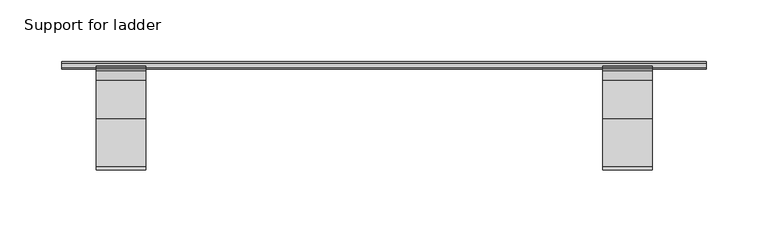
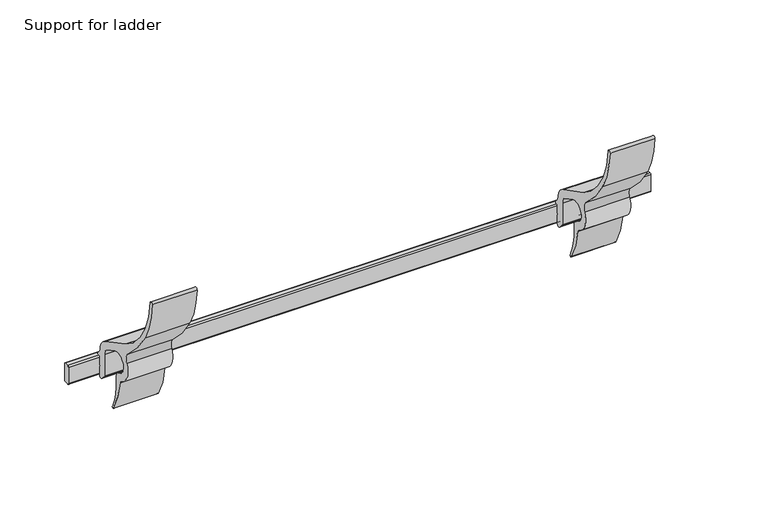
"""IFC4 building model written with IfcOpenShell, lengths in millimetres: proxy geometry, GROVIK_Special_Ladder Support : Support for ladder."""

from ifc_helpers import new_model, si_unit, point, frame, frame_2d, origin, place, context, project, spatial, polyline, circle_curve, trimmed, segment, composite_curve, outline, extrude, source, transform, mapped, element, save


def support_for_ladder_5c5d3373(model_context):
    return source(origin(), model_context, "Body", "SweptSolid", [
        extrude(outline(composite_curve([segment(polyline([(-100.3471133, -28.8400648), (-104.3471133, -25.1949601)]), True, "CONTINUOUS"), segment(trimmed(circle_curve(frame_2d((-103.0, -23.7166889)), 2.0), [point((-104.3471133, -25.1949601))], [point((-105.0, -23.7166889))], False, "CARTESIAN"), True, "CONTINUOUS"), segment(polyline([(-105.0, -23.7166889), (-105.0, -3.2356846)]), True, "CONTINUOUS"), segment(trimmed(circle_curve(frame_2d((-112.5037926, -3.2356846)), 7.5037926), [point((-105.0, -3.2356846))], [point((-109.0572751, 3.4297802))], True, "CARTESIAN"), True, "CONTINUOUS"), segment(polyline([(-109.0572751, 3.4297802), (-121.2875493, 9.7536984)]), True, "CONTINUOUS"), segment(trimmed(circle_curve(frame_2d((-125.4171148, 1.7672387)), 8.9909315), [point((-121.2875493, 9.7536984))], [point((-129.5466803, -6.2192211))], True, "CARTESIAN"), True, "CONTINUOUS"), segment(polyline([(-129.5466803, -6.2192211), (-125.7022475, -8.2070652)]), True, "CONTINUOUS"), segment(trimmed(circle_curve(frame_2d((-127.9943388, -12.6399034)), 4.9903644), [point((-125.7022475, -8.2070652))], [point((-123.0376282, -13.2184852))], False, "CARTESIAN"), True, "CONTINUOUS"), segment(trimmed(circle_curve(frame_2d((-61.4949065, -18.251373)), 61.7481705), [point((-123.0376282, -13.2184852))], [point((-117.0379542, -45.2292604))], True, "CARTESIAN"), True, "CONTINUOUS"), segment(trimmed(circle_curve(frame_2d((-117.7006523, -45.6248433)), 0.7717867), [point((-117.0379542, -45.2292604))], [point((-118.3633504, -46.0204262))], False, "CARTESIAN"), True, "CONTINUOUS"), segment(trimmed(circle_curve(frame_2d((-51.0899225, -5.8630493)), 78.3474889), [point((-118.3633504, -46.0204262))], [point((-128.8173707, -15.7003669))], False, "CARTESIAN"), True, "CONTINUOUS"), segment(trimmed(circle_curve(frame_2d((-132.1430681, -16.1212728)), 3.3522268), [point((-128.8173707, -15.7003669))], [point((-130.9203712, -12.999985))], True, "CARTESIAN"), True, "CONTINUOUS"), segment(trimmed(circle_curve(frame_2d((-125.1599333, 1.7052001)), 15.7931983), [point((-130.9203712, -12.999985))], [point((-139.1668738, 9.0011395))], False, "CARTESIAN"), True, "CONTINUOUS"), segment(trimmed(circle_curve(frame_2d((-146.2881022, 12.7104472)), 8.0293747), [point((-139.1668738, 9.0011395))], [point((-141.0776299, 18.8196072))], True, "CARTESIAN"), True, "CONTINUOUS"), segment(trimmed(circle_curve(frame_2d((-59.579421, 114.3743997)), 125.5893165), [point((-141.0776299, 18.8196072))], [point((-167.477544, 50.1040995))], False, "CARTESIAN"), True, "CONTINUOUS"), segment(trimmed(circle_curve(frame_2d((-90.8112333, 92.7675806)), 87.7376533), [point((-167.477544, 50.1040995))], [point((-178.428938, 88.1813361))], False, "CARTESIAN"), True, "CONTINUOUS"), segment(trimmed(circle_curve(frame_2d((-176.9250855, 88.2600534)), 1.5059113), [point((-178.428938, 88.1813361))], [point((-175.4212329, 88.3387708))], False, "CARTESIAN"), True, "CONTINUOUS"), segment(trimmed(circle_curve(frame_2d((-98.7314624, 92.3530056)), 76.7947589), [point((-175.4212329, 88.3387708))], [point((-136.7458357, 25.6271305))], True, "CARTESIAN"), True, "CONTINUOUS"), segment(polyline([(-136.7458357, 25.6271305), (-105.8246835, 9.6387043)]), True, "CONTINUOUS"), segment(trimmed(circle_curve(frame_2d((-111.8951082, -2.8639535)), 13.8984355), [point((-105.8246835, 9.6387043))], [point((-98.0088177, -2.283055))], False, "CARTESIAN"), True, "CONTINUOUS"), segment(trimmed(circle_curve(frame_2d((-93.0376396, -2.0750981)), 4.9755259), [point((-98.0088177, -2.283055))], [point((-96.5125484, -5.6361185))], True, "CARTESIAN"), True, "CONTINUOUS"), segment(polyline([(-96.5125484, -5.6361185), (-95.0968592, -7.0175739)]), True, "CONTINUOUS"), segment(trimmed(circle_curve(frame_2d((-96.4789782, -8.4339431)), 1.9789782), [point((-95.0968592, -7.0175739))], [point((-94.5, -8.4339431))], False, "CARTESIAN"), True, "CONTINUOUS"), segment(polyline([(-94.5, -8.4339431), (-94.5, -9.6), (-97.0, -9.6), (-97.0, -17.4350044), (-97.7, -18.6), (-97.0, -19.7649956), (-97.0, -27.3617936)]), True, "CONTINUOUS"), segment(trimmed(circle_curve(frame_2d((-99.0, -27.3617936)), 2.0), [point((-97.0, -27.3617936))], [point((-100.3471133, -28.8400648))], False, "CARTESIAN"), True, "CONTINUOUS")], self_intersect=False)), frame((176.6319399, 0.0, 0.0), z_axis=(1.0, 0.0, 0.0), x_axis=(0.0, 1.0, 0.0)), (0.0, 0.0, 1.0), 40.0),
        extrude(outline(composite_curve([segment(polyline([(-100.3471133, -28.8400648), (-104.3471133, -25.1949601)]), True, "CONTINUOUS"), segment(trimmed(circle_curve(frame_2d((-103.0, -23.7166889)), 2.0), [point((-104.3471133, -25.1949601))], [point((-105.0, -23.7166889))], False, "CARTESIAN"), True, "CONTINUOUS"), segment(polyline([(-105.0, -23.7166889), (-105.0, -3.2356846)]), True, "CONTINUOUS"), segment(trimmed(circle_curve(frame_2d((-112.5037926, -3.2356846)), 7.5037926), [point((-105.0, -3.2356846))], [point((-109.0572751, 3.4297802))], True, "CARTESIAN"), True, "CONTINUOUS"), segment(polyline([(-109.0572751, 3.4297802), (-121.2875493, 9.7536984)]), True, "CONTINUOUS"), segment(trimmed(circle_curve(frame_2d((-125.4171148, 1.7672387)), 8.9909315), [point((-121.2875493, 9.7536984))], [point((-129.5466803, -6.2192211))], True, "CARTESIAN"), True, "CONTINUOUS"), segment(polyline([(-129.5466803, -6.2192211), (-125.7022475, -8.2070652)]), True, "CONTINUOUS"), segment(trimmed(circle_curve(frame_2d((-127.9943388, -12.6399034)), 4.9903644), [point((-125.7022475, -8.2070652))], [point((-123.0376282, -13.2184852))], False, "CARTESIAN"), True, "CONTINUOUS"), segment(trimmed(circle_curve(frame_2d((-61.4949065, -18.251373)), 61.7481705), [point((-123.0376282, -13.2184852))], [point((-117.0379542, -45.2292604))], True, "CARTESIAN"), True, "CONTINUOUS"), segment(trimmed(circle_curve(frame_2d((-117.7006523, -45.6248433)), 0.7717867), [point((-117.0379542, -45.2292604))], [point((-118.3633504, -46.0204262))], False, "CARTESIAN"), True, "CONTINUOUS"), segment(trimmed(circle_curve(frame_2d((-51.0899225, -5.8630493)), 78.3474889), [point((-118.3633504, -46.0204262))], [point((-128.8173707, -15.7003669))], False, "CARTESIAN"), True, "CONTINUOUS"), segment(trimmed(circle_curve(frame_2d((-132.1430681, -16.1212728)), 3.3522268), [point((-128.8173707, -15.7003669))], [point((-130.9203712, -12.999985))], True, "CARTESIAN"), True, "CONTINUOUS"), segment(trimmed(circle_curve(frame_2d((-125.1599333, 1.7052001)), 15.7931983), [point((-130.9203712, -12.999985))], [point((-139.1668738, 9.0011395))], False, "CARTESIAN"), True, "CONTINUOUS"), segment(trimmed(circle_curve(frame_2d((-146.2881022, 12.7104472)), 8.0293747), [point((-139.1668738, 9.0011395))], [point((-141.0776299, 18.8196072))], True, "CARTESIAN"), True, "CONTINUOUS"), segment(trimmed(circle_curve(frame_2d((-59.579421, 114.3743997)), 125.5893165), [point((-141.0776299, 18.8196072))], [point((-167.477544, 50.1040995))], False, "CARTESIAN"), True, "CONTINUOUS"), segment(trimmed(circle_curve(frame_2d((-90.8112333, 92.7675806)), 87.7376533), [point((-167.477544, 50.1040995))], [point((-178.428938, 88.1813361))], False, "CARTESIAN"), True, "CONTINUOUS"), segment(trimmed(circle_curve(frame_2d((-176.9250855, 88.2600534)), 1.5059113), [point((-178.428938, 88.1813361))], [point((-175.4212329, 88.3387708))], False, "CARTESIAN"), True, "CONTINUOUS"), segment(trimmed(circle_curve(frame_2d((-98.7314624, 92.3530056)), 76.7947589), [point((-175.4212329, 88.3387708))], [point((-136.7458357, 25.6271305))], True, "CARTESIAN"), True, "CONTINUOUS"), segment(polyline([(-136.7458357, 25.6271305), (-105.8246835, 9.6387043)]), True, "CONTINUOUS"), segment(trimmed(circle_curve(frame_2d((-111.8951082, -2.8639535)), 13.8984355), [point((-105.8246835, 9.6387043))], [point((-98.0088177, -2.283055))], False, "CARTESIAN"), True, "CONTINUOUS"), segment(trimmed(circle_curve(frame_2d((-93.0376396, -2.0750981)), 4.9755259), [point((-98.0088177, -2.283055))], [point((-96.5125484, -5.6361185))], True, "CARTESIAN"), True, "CONTINUOUS"), segment(polyline([(-96.5125484, -5.6361185), (-95.0968592, -7.0175739)]), True, "CONTINUOUS"), segment(trimmed(circle_curve(frame_2d((-96.4789782, -8.4339431)), 1.9789782), [point((-95.0968592, -7.0175739))], [point((-94.5, -8.4339431))], False, "CARTESIAN"), True, "CONTINUOUS"), segment(polyline([(-94.5, -8.4339431), (-94.5, -9.6), (-97.0, -9.6), (-97.0, -17.4350044), (-97.7, -18.6), (-97.0, -19.7649956), (-97.0, -27.3617936)]), True, "CONTINUOUS"), segment(trimmed(circle_curve(frame_2d((-99.0, -27.3617936)), 2.0), [point((-97.0, -27.3617936))], [point((-100.3471133, -28.8400648))], False, "CARTESIAN"), True, "CONTINUOUS")], self_intersect=False)), frame((-232.2531179, 0.0, 0.0), z_axis=(1.0, 0.0, 0.0), x_axis=(0.0, 1.0, 0.0)), (0.0, 0.0, 1.0), 40.0),
        extrude(outline(composite_curve([segment(polyline([(-96.0, -9.6), (-92.0, -9.6)]), True, "CONTINUOUS"), segment(trimmed(circle_curve(frame_2d((-92.0, -10.6)), 1.0), [point((-92.0, -9.6))], [point((-91.0, -10.6))], False, "CARTESIAN"), True, "CONTINUOUS"), segment(polyline([(-91.0, -10.6), (-91.0, -26.1)]), True, "CONTINUOUS"), segment(trimmed(circle_curve(frame_2d((-92.0, -26.1)), 1.0), [point((-91.0, -26.1))], [point((-92.0, -27.1))], False, "CARTESIAN"), True, "CONTINUOUS"), segment(polyline([(-92.0, -27.1), (-96.0, -27.1)]), True, "CONTINUOUS"), segment(trimmed(circle_curve(frame_2d((-96.0, -26.1)), 1.0), [point((-96.0, -27.1))], [point((-97.0, -26.1))], False, "CARTESIAN"), True, "CONTINUOUS"), segment(polyline([(-97.0, -26.1), (-97.0, -10.6)]), True, "CONTINUOUS"), segment(trimmed(circle_curve(frame_2d((-96.0, -10.6)), 1.0), [point((-97.0, -10.6))], [point((-96.0, -9.6))], False, "CARTESIAN"), True, "CONTINUOUS")], self_intersect=False)), frame((-260.0, 0.0, 0.0), z_axis=(1.0, 0.0, 0.0), x_axis=(0.0, 1.0, 0.0)), (0.0, 0.0, 1.0), 520.0),
    ])


if __name__ == "__main__":
    model = new_model("IFC4")
    model_context = context("Model", 3, world=origin())
    ifc_project = project(units=[si_unit("LENGTHUNIT", "METRE", prefix="MILLI")], contexts=[model_context])
    site = spatial("IfcSite", under=ifc_project)
    building = spatial("IfcBuilding", under=site)
    placement = place(None, origin())
    support_for_ladder_shape = support_for_ladder_5c5d3373(model_context)
    element("IfcBuildingElementProxy", 1, Name="GROVIK_Special_Ladder Support : Support for ladder", ObjectType="GROVIK_Special_Ladder Support : Support for ladder", at=placement, inside=building, context=model_context, shape_type="MappedRepresentation", body=[
        mapped(support_for_ladder_shape, transform((0.0, 0.0, 0.0), x_axis=(1.0, 0.0, 0.0), y_axis=(0.0, 1.0, 0.0), z_axis=(0.0, 0.0, 1.0))),
    ])
    save(model, "model.ifc")
